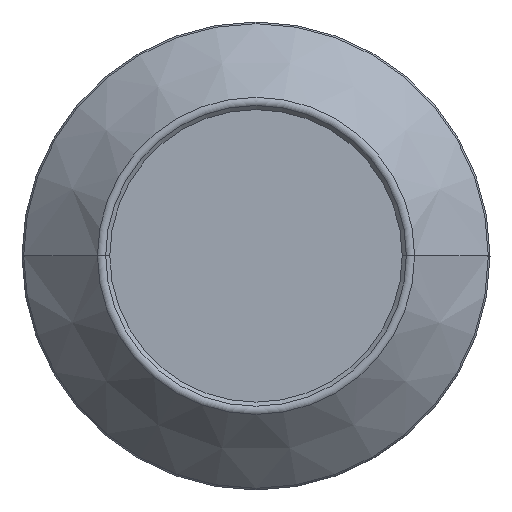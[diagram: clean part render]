
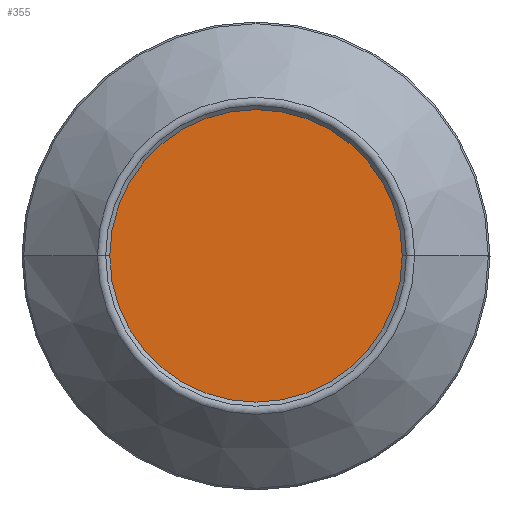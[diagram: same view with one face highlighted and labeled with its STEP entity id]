
A CAD part, top view. The second image highlights one B-rep face of the part: STEP entity #355.
In plain terms, the highlighted planar face has unit normal (0, 0, 1).
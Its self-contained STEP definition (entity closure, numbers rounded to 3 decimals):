
#53 = VERTEX_POINT ( 'NONE', #271 ) ;
#65 = EDGE_CURVE ( 'NONE', #173, #53, #588, .T. ) ;
#168 = ORIENTED_EDGE ( 'NONE', *, *, #65, .T. ) ;
#173 = VERTEX_POINT ( 'NONE', #683 ) ;
#191 = EDGE_LOOP ( 'NONE', ( #359, #168 ) ) ;
#271 = CARTESIAN_POINT ( 'NONE',  ( 5.047, 0., 99.8 ) ) ;
#355 = ADVANCED_FACE ( 'NONE', ( #951 ), #858, .T. ) ;
#359 = ORIENTED_EDGE ( 'NONE', *, *, #360, .T. ) ;
#360 = EDGE_CURVE ( 'NONE', #53, #173, #851, .T. ) ;
#584 = DIRECTION ( 'NONE',  ( 1., 0., 0. ) ) ;
#585 = DIRECTION ( 'NONE',  ( 0., 0., 1. ) ) ;
#586 = CARTESIAN_POINT ( 'NONE',  ( 0., 0., 99.8 ) ) ;
#587 = AXIS2_PLACEMENT_3D ( 'NONE', #586, #585, #584 ) ;
#588 = CIRCLE ( 'NONE', #587, 5.047 ) ;
#683 = CARTESIAN_POINT ( 'NONE',  ( -5.047, 0., 99.8 ) ) ;
#840 = DIRECTION ( 'NONE',  ( 1., 0., 0. ) ) ;
#841 = DIRECTION ( 'NONE',  ( 0., 0., 1. ) ) ;
#842 = CARTESIAN_POINT ( 'NONE',  ( 0., 0., 99.8 ) ) ;
#851 = CIRCLE ( 'NONE', #947, 5.047 ) ;
#852 = DIRECTION ( 'NONE',  ( 1., 0., 0. ) ) ;
#853 = DIRECTION ( 'NONE',  ( 0., 0., 1. ) ) ;
#854 = CARTESIAN_POINT ( 'NONE',  ( 0., 0., 99.8 ) ) ;
#857 = AXIS2_PLACEMENT_3D ( 'NONE', #854, #853, #852 ) ;
#858 = PLANE ( 'NONE',  #857 ) ;
#947 = AXIS2_PLACEMENT_3D ( 'NONE', #842, #841, #840 ) ;
#951 = FACE_OUTER_BOUND ( 'NONE', #191, .T. ) ;
